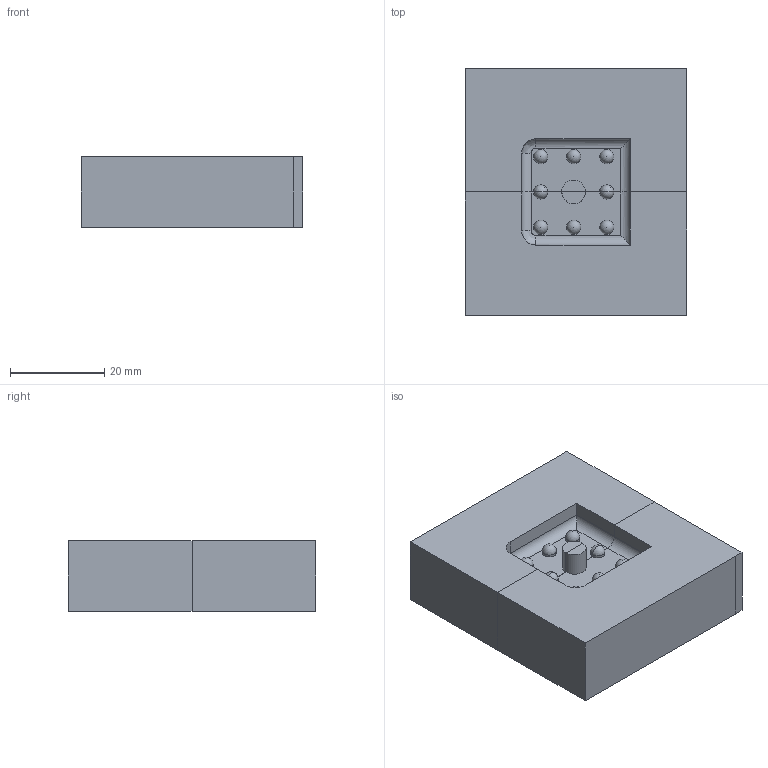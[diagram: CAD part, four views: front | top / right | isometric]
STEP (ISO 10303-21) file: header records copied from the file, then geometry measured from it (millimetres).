
FILE_DESCRIPTION(/* description */ (''),/* implementation_level */ '2;1');
FILE_NAME(/* name */ 'C:/Users/Owner/Desktop/K-CAD Songbird PM4 Centerfire/STEP/Centerfire Frames/Songbird PM4C Recoil Pad Mold.step',/* time_stamp */ '2020-12-06T23:37:04-05:00',/* author */ (''),/* organization */ (''),/* preprocessor_version */ 'ST-DEVELOPER v18.1',/* originating_system */ 'Autodesk Translation Framework v9.3.0.1241',/* authorisation */ '');
FILE_SCHEMA (('AUTOMOTIVE_DESIGN { 1 0 10303 214 3 1 1 }'));
Length unit declared in the file: millimetre
Products named in the file (3): Songbird PM4C Recoil Pad Mold; mold 1; mold 2
Assembly tree (2 placements, depth 2):
  Songbird PM4C Recoil Pad Mold
    mold 1
    mold 2
Bounding box: 47 x 52.5 x 15 mm (x, y, z)
Volume: 34700.5 mm3; surface area: 10650.6 mm2
Topology: 2 solids, 2 shells, 72 faces, 203 edges, 131 vertices
Faces by surface type: plane 40, cylinder 20, sphere 10, bspline 2
Full cylindrical faces by diameter (mm): 3 x6
Entity records: 2375 total; most frequent: CARTESIAN_POINT 423, DIRECTION 399, ORIENTED_EDGE 386, EDGE_CURVE 193, LINE 137, VECTOR 137, VERTEX_POINT 131, AXIS2_PLACEMENT_3D 131
